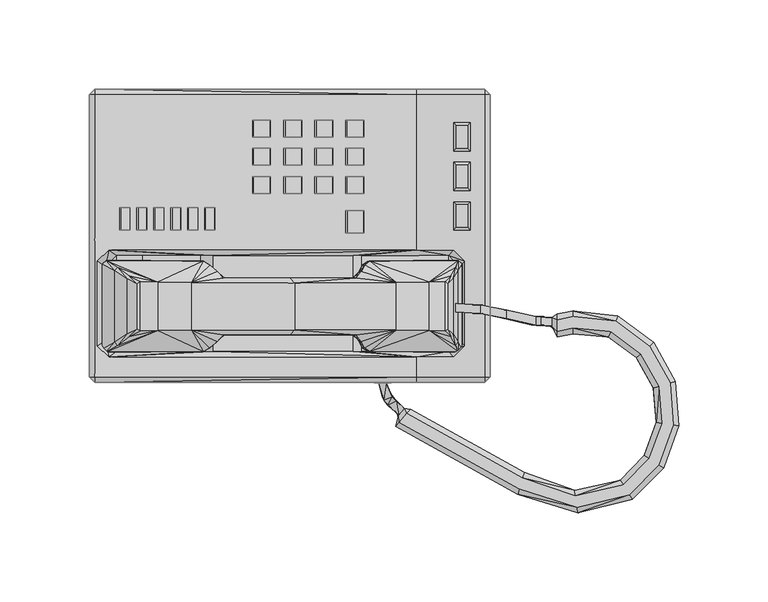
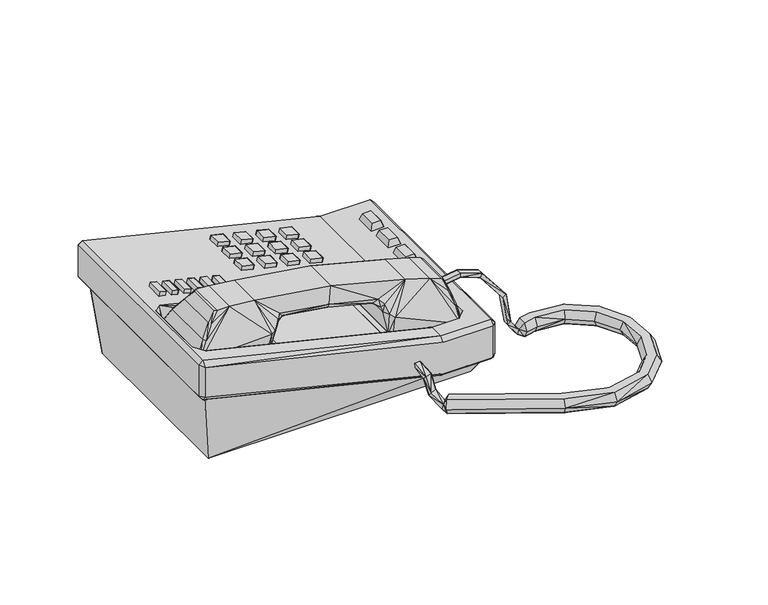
"""IFC4 building model written with IfcOpenShell, lengths in millimetres: proxy geometry, Telephone04電話 : Telephone04電話."""

from ifc_helpers import new_model, si_unit, origin, place, context, project, spatial, triangles, source, transform, mapped, element, save


def specialty_equipment_52ff1dbe(model_context):
    return source(origin(), model_context, "Body", "Tessellation", [
        triangles([(219.075, 158.7499939, 12.6999947), (212.7250061, 152.4, -6.1e-06), (12.7000004, 152.4, -6.1e-06), (184.1500061, 158.7499939, 12.6999947), (219.075, 6.3499991, 12.7000061), (212.7250061, 12.6999981, 6.1e-06), (12.7000004, 12.6999981, 6.1e-06), (184.1500061, 6.3499991, 12.7000061), (6.5250014, 158.7499939, 55.5749917), (6.5250014, 6.3500025, 55.5750053)], [[1, 2, 3], [3, 4, 1], [1, 5, 2], [6, 2, 5], [6, 5, 7], [8, 7, 5], [4, 3, 9], [10, 9, 3], [3, 7, 10], [7, 8, 10]], closed=False),
        triangles([(119.386817, 138.1125, 63.4367393), (118.6378166, 138.1125, 60.3513489), (119.386817, 147.6375, 63.4367393), (118.6378166, 147.6374909, 60.3513489), (119.386817, 122.237497, 63.4367393), (118.6378166, 122.237497, 60.3513489), (119.386817, 131.762497, 63.4367393), (118.6378166, 131.762497, 60.3513489), (119.386817, 106.362503, 63.4367393), (118.6378166, 106.362503, 60.3513489), (119.386817, 115.887503, 63.4367393), (118.6378166, 115.887503, 60.3513489), (136.849314, 122.237497, 59.1836013), (136.1003136, 122.237497, 56.098211), (136.849314, 131.762497, 59.1836013), (136.1003136, 131.762497, 56.098211), (136.849314, 106.362503, 59.1836013), (136.1003136, 106.362503, 56.098211), (136.849314, 115.887503, 59.1836013), (136.1003136, 115.887503, 56.098211), (136.849314, 138.1125, 59.1836013), (136.1003136, 138.1125, 56.098211), (136.849314, 147.6374909, 59.1836013), (136.1003136, 147.6374909, 56.098211), (154.3118201, 138.1125, 54.9793522), (153.5628106, 138.1125, 51.8939618), (154.3118201, 147.6374909, 54.9793522), (153.5628106, 147.6375, 51.8939618), (154.3118201, 122.237497, 54.9793522), (153.5628106, 122.237497, 51.8939618), (154.3118201, 131.762497, 54.9793522), (153.5628106, 131.762497, 51.8939618), (154.3118201, 106.362503, 54.9793522), (153.5628106, 106.362503, 51.8939618), (154.3118201, 115.887503, 54.9793522), (153.5628106, 115.887503, 51.8939618), (154.3118201, 84.137497, 54.9793522), (153.5628106, 84.137497, 51.8939618), (154.3118201, 96.8374939, 54.9793522), (153.5628106, 96.8374939, 51.8939618), (145.0556354, 138.1125, 57.2263171), (145.0556354, 147.6374909, 57.2263171), (144.3066441, 147.6374909, 54.1409222), (144.3066441, 138.1125, 54.1409222), (145.0556354, 131.762497, 57.2263171), (144.3066441, 131.762497, 54.1409222), (145.0556354, 122.237497, 57.2263171), (144.3066441, 122.237497, 54.1409222), (145.0556354, 106.362503, 57.2263171), (145.0556354, 115.887503, 57.2263171), (144.3066441, 115.887503, 54.1409222), (144.3066441, 106.362503, 54.1409222), (145.0556354, 96.8374939, 57.2263171), (144.3066441, 96.8374939, 54.1409222), (145.0556354, 84.137497, 57.2263171), (144.3066441, 84.137497, 54.1409222), (127.5931294, 122.237497, 61.4305663), (126.8441471, 122.237497, 58.3451714), (126.8441471, 131.762497, 58.3451714), (127.5931294, 131.762497, 61.4305663), (126.8441471, 115.887503, 58.3451714), (127.5931294, 115.887503, 61.4305663), (127.5931294, 106.362503, 61.4305663), (126.8441471, 106.362503, 58.3451714), (126.8441471, 147.6374909, 58.3451714), (127.5931294, 147.6375, 61.4305663), (127.5931294, 138.1125, 61.4305663), (126.8441471, 138.1125, 58.3451714), (101.924311, 122.237497, 67.6714326), (101.1753196, 122.237497, 64.5860423), (101.924311, 131.762497, 67.6714326), (101.1753196, 131.762497, 64.5860423), (101.924311, 106.362503, 67.6714326), (101.1753196, 106.362503, 64.5860423), (101.924311, 115.887503, 67.6714326), (101.1753196, 115.887503, 64.5860423), (101.924311, 138.1125, 67.6714326), (101.1753196, 138.1125, 64.5860423), (101.924311, 147.6375, 67.6714326), (101.1753196, 147.6375, 64.5860423), (110.1306324, 147.6375, 65.6837042), (109.3816501, 147.6375, 62.5983093), (110.1306324, 138.1125, 65.6837042), (109.3816501, 138.1125, 62.5983093), (110.1306324, 131.762497, 65.6837042), (109.3816501, 131.762497, 62.5983093), (110.1306324, 122.237497, 65.6837042), (109.3816501, 122.237497, 62.5983093), (110.1306324, 115.887503, 65.6837042), (109.3816501, 115.887503, 62.5983093), (110.1306324, 106.362503, 65.6837042), (109.3816501, 106.362503, 62.5983093), (92.6681354, 122.237497, 69.9184021), (91.9191441, 122.237497, 66.8330073), (91.9191441, 131.762497, 66.8330073), (92.6681354, 131.762497, 69.9184021), (91.9191441, 115.887503, 66.8330073), (92.6681354, 115.887503, 69.9184021), (92.6681354, 106.362503, 69.9184021), (91.9191441, 106.362503, 66.8330073), (91.9191441, 147.6375, 66.8330073), (92.6681354, 147.6375, 69.9184021), (92.6681354, 138.1125, 69.9184021), (91.9191441, 138.1125, 66.8330073)], [[1, 2, 3], [4, 3, 2], [5, 6, 7], [8, 7, 6], [9, 10, 11], [12, 11, 10], [13, 14, 15], [16, 15, 14], [17, 18, 19], [20, 19, 18], [21, 22, 23], [24, 23, 22], [25, 26, 27], [28, 27, 26], [29, 30, 31], [32, 31, 30], [33, 34, 35], [36, 35, 34], [37, 38, 39], [40, 39, 38], [41, 25, 42], [27, 42, 25], [42, 43, 41], [44, 41, 43], [45, 46, 47], [48, 47, 46], [47, 29, 45], [31, 45, 29], [49, 33, 50], [35, 50, 33], [50, 51, 49], [52, 49, 51], [53, 54, 55], [56, 55, 54], [55, 37, 53], [39, 53, 37], [27, 28, 43], [43, 42, 27], [41, 44, 25], [26, 25, 44], [47, 48, 29], [30, 29, 48], [31, 32, 46], [46, 45, 31], [35, 36, 51], [51, 50, 35], [49, 52, 33], [34, 33, 52], [55, 56, 37], [38, 37, 56], [39, 40, 54], [54, 53, 39], [57, 58, 13], [14, 13, 58], [15, 16, 59], [59, 60, 15], [19, 20, 61], [61, 62, 19], [63, 64, 17], [18, 17, 64], [23, 24, 65], [65, 66, 23], [67, 68, 21], [22, 21, 68], [60, 59, 57], [58, 57, 59], [62, 61, 63], [64, 63, 61], [66, 65, 67], [68, 67, 65], [57, 13, 60], [15, 60, 13], [63, 17, 62], [19, 62, 17], [67, 21, 66], [23, 66, 21], [69, 70, 71], [72, 71, 70], [73, 74, 75], [76, 75, 74], [77, 78, 79], [80, 79, 78], [81, 82, 83], [84, 83, 82], [85, 86, 87], [88, 87, 86], [89, 90, 91], [92, 91, 90], [83, 1, 81], [3, 81, 1], [87, 5, 85], [7, 85, 5], [91, 9, 89], [11, 89, 9], [3, 4, 82], [82, 81, 3], [83, 84, 1], [2, 1, 84], [87, 88, 5], [6, 5, 88], [7, 8, 86], [86, 85, 7], [11, 12, 90], [90, 89, 11], [91, 92, 9], [10, 9, 92], [93, 94, 69], [70, 69, 94], [71, 72, 95], [95, 96, 71], [75, 76, 97], [97, 98, 75], [99, 100, 73], [74, 73, 100], [79, 80, 101], [101, 102, 79], [103, 104, 77], [78, 77, 104], [96, 95, 93], [94, 93, 95], [98, 97, 99], [100, 99, 97], [102, 101, 103], [104, 103, 101], [93, 69, 96], [71, 96, 69], [99, 73, 98], [75, 98, 73], [103, 77, 102], [79, 102, 77]], closed=False),
        triangles([(18.0556328, 85.725, 87.869682), (22.9462624, 85.725, 86.6796928), (18.0556328, 98.424997, 87.869682), (22.9462624, 98.424997, 86.6796928), (17.3066471, 98.424997, 84.7842962), (17.3066471, 85.725, 84.7842962), (32.4712624, 85.725, 84.3548166), (31.7222756, 85.725, 81.2694217), (32.4712624, 98.424997, 84.3548166), (31.7222756, 98.424997, 81.2694217), (37.1056316, 85.725, 83.2600069), (41.9962602, 85.725, 82.0700178), (37.1056316, 98.424997, 83.2600069), (41.9962602, 98.424997, 82.0700178), (56.1556339, 85.725, 78.7242464), (61.0462602, 85.725, 77.5342572), (56.1556339, 98.424997, 78.7242464), (61.0462602, 98.424997, 77.5342572), (51.5212602, 85.725, 79.8331085), (50.7722779, 85.725, 76.7477227), (51.5212602, 98.424997, 79.8331085), (50.7722779, 98.424997, 76.7477227), (46.6306339, 98.424997, 81.0230977), (45.8816471, 98.424997, 77.9377119), (46.6306339, 85.725, 81.0230977), (45.8816471, 85.725, 77.9377119), (36.3566471, 85.725, 80.174612), (41.2472779, 85.725, 78.9846229), (36.3566471, 98.424997, 80.174612), (41.2472779, 98.424997, 78.9846229), (70.5712602, 85.725, 75.1854226), (69.8222779, 85.725, 72.1000322), (70.5712602, 98.424997, 75.1854226), (69.8222779, 98.424997, 72.1000322), (60.2972779, 98.424997, 74.4488669), (55.4066471, 98.424997, 75.638856), (55.4066471, 85.725, 75.638856), (60.2972779, 85.725, 74.4488669), (65.6806339, 85.725, 76.3754163), (64.9316471, 85.725, 73.2900214), (64.9316471, 98.424997, 73.2900214), (65.6806339, 98.424997, 76.3754163), (27.5806316, 98.424997, 85.5448057), (26.8316471, 98.424997, 82.4594108), (27.5806316, 85.725, 85.5448057), (26.8316471, 85.725, 82.4594108), (22.1972756, 85.725, 83.594307), (22.1972756, 98.424997, 83.594307)], [[1, 2, 3], [4, 3, 2], [3, 5, 1], [6, 1, 5], [7, 8, 9], [10, 9, 8], [11, 12, 13], [14, 13, 12], [15, 16, 17], [18, 17, 16], [19, 20, 21], [22, 21, 20], [23, 24, 25], [26, 25, 24], [21, 22, 24], [24, 23, 21], [25, 26, 19], [20, 19, 26], [25, 19, 23], [21, 23, 19], [11, 27, 12], [28, 12, 27], [13, 29, 11], [27, 11, 29], [12, 28, 14], [30, 14, 28], [14, 30, 29], [29, 13, 14], [31, 32, 33], [34, 33, 32], [18, 35, 36], [36, 17, 18], [17, 36, 15], [37, 15, 36], [15, 37, 16], [38, 16, 37], [39, 40, 31], [32, 31, 40], [33, 34, 41], [41, 42, 33], [39, 31, 42], [33, 42, 31], [16, 38, 18], [35, 18, 38], [42, 41, 39], [40, 39, 41], [43, 44, 45], [46, 45, 44], [45, 46, 7], [8, 7, 46], [9, 10, 44], [44, 43, 9], [1, 6, 2], [47, 2, 6], [2, 47, 4], [48, 4, 47], [4, 48, 5], [5, 3, 4], [45, 7, 43], [9, 43, 7]], closed=False),
        triangles([(212.7250061, 144.462503, 49.2612555), (206.3749939, 144.462503, 49.2612555), (206.3749939, 131.762497, 49.26126), (212.7250061, 131.762497, 49.26126), (212.7250061, 122.237497, 49.26126), (206.3749939, 122.237497, 49.26126), (206.3749939, 109.5375, 49.26126), (212.7250061, 109.5375, 49.26126), (212.7250061, 100.0124909, 49.26126), (206.3749939, 100.0124909, 49.26126), (206.3749939, 87.312503, 49.26126), (212.7250061, 87.312503, 49.26126), (214.3125, 130.175003, 44.49876), (214.3125, 146.049997, 44.4987555), (214.3125, 107.949997, 44.49876), (214.3125, 123.825, 44.49876), (214.3125, 85.7249909, 44.49876), (214.3125, 101.5999939, 44.49876), (204.7875, 130.175003, 44.49876), (204.7875, 146.049997, 44.4987555), (204.7875, 107.949997, 44.49876), (204.7875, 123.825, 44.49876), (204.7875, 85.7249909, 44.49876), (204.7875, 101.5999939, 44.49876)], [[1, 2, 3], [3, 4, 1], [5, 6, 7], [7, 8, 5], [9, 10, 11], [11, 12, 9], [4, 13, 1], [14, 1, 13], [8, 15, 5], [16, 5, 15], [12, 17, 9], [18, 9, 17], [19, 13, 3], [4, 3, 13], [2, 20, 3], [19, 3, 20], [21, 15, 7], [8, 7, 15], [6, 22, 7], [21, 7, 22], [23, 17, 11], [12, 11, 17], [10, 24, 11], [23, 11, 24], [9, 18, 24], [24, 10, 9], [5, 16, 22], [22, 6, 5], [1, 14, 20], [20, 2, 1]], closed=False),
        triangles([(220.0140597, 38.8453669, 57.2399654), (220.0140597, 43.6078669, 57.2399654), (233.3747994, 36.0127092, 54.0176467), (233.3747994, 40.7752092, 54.0176467), (206.2765261, 39.687503, 54.5557952), (206.2765261, 44.450003, 54.5557952), (234.4956975, 36.0127092, 57.1207095), (219.9561235, 38.8453669, 60.4271846), (234.4956975, 40.7752092, 57.1207095), (219.9561235, 43.6078669, 60.4271846), (205.9354859, 39.687503, 57.7124293), (205.9354859, 44.450003, 57.7124293), (162.7320547, -0.0873946, 31.8161244), (162.805415, -0.093472, 28.1094057), (165.5640039, -9.7113009, 25.9316861), (164.6510327, -7.8168171, 23.8088483), (167.0160955, -0.0719253, 28.1094057), (166.942717, -0.065848, 31.8161244), (170.4472087, -8.0459705, 25.9316861), (169.5342376, -6.1514874, 23.8088483), (326.4106359, -0.2517093, 11.8254626), (314.8907722, 20.4580831, 11.8254603), (320.2307078, -2.0662962, 11.8655117), (310.0231187, 16.2402469, 11.8655094), (328.2863208, -23.8755253, 11.8254648), (321.9110559, -22.9589002, 11.8655128), (320.1787851, -46.1436905, 11.8254671), (314.7604385, -42.6615221, 11.8655151), (273.2773057, -63.7994851, 11.8655173), (274.1939285, -70.1747364, 11.8254682), (300.071237, -57.6131803, 11.8655162), (303.5534191, -63.0315405, 11.8254682), (271.7707661, 37.1771798, 11.8254591), (263.0395221, 35.3244699, 11.8254591), (263.0395221, 28.8836589, 11.8655083), (271.7707661, 30.7363665, 11.8655083), (293.1331431, 28.6520779, 11.8655083), (295.808761, 34.5108454, 11.8254591), (243.4960203, -53.6327229, 11.8655162), (241.6814508, -59.8126418, 11.8254671), (178.5077269, -17.4364618, 11.8655128), (174.2898884, -22.3041028, 11.8254648), (172.7229601, -10.4297288, 13.5024836), (167.8397552, -12.9283317, 13.5024836), (174.0307473, -18.0260254, 5.6812717), (177.1212926, -14.4025093, 5.6812711), (254.1416277, 36.9013631, 13.5425282), (254.1416277, 32.1388654, 13.5425282), (260.0661571, 31.9704323, 5.7213157), (260.0661571, 36.73293, 5.7213151), (317.298365, 22.5442862, 6.2275297), (329.4672807, 0.6458115, 6.227532), (331.4396167, -24.3288997, 6.2275337), (322.8587814, -47.8660191, 6.2275359), (271.7707661, 40.3629024, 6.227528), (263.0395221, 38.5101948, 6.2275286), (297.1321541, 37.4086814, 6.2275286), (172.2036786, -24.7117116, 6.2275337), (240.783922, -62.8693139, 6.2275371), (244.4130791, -50.5094942, 6.3076336), (180.6393555, -14.9764296, 6.3076302), (298.3114244, -54.8748255, 6.3076336), (272.8140708, -60.5775297, 6.3076347), (274.6473165, -73.3280323, 6.2275382), (305.275734, -65.7115368, 6.2275376), (271.7707661, 27.4812782, 6.3076268), (263.0395221, 25.6285683, 6.3076268), (291.7809364, 25.691144, 6.3076268), (307.5630944, 14.1086183, 6.3076279), (317.107461, -2.9833608, 6.307629), (318.6890868, -22.4956541, 6.3076313), (312.0220882, -40.9016867, 6.3076325), (320.1641421, -2.0858401, 0.7097), (309.9706873, 16.1948202, 0.7096984), (314.8383408, 20.4126553, 0.6696479), (326.3440701, -0.2712539, 0.6696496), (321.8423827, -22.9490307, 0.7097019), (328.2176476, -23.8656536, 0.6696517), (314.7020845, -42.6240198, 0.7097036), (320.1204311, -46.1061837, 0.6696537), (300.0337393, -57.5548263, 0.7097049), (303.5159032, -62.9731865, 0.6696551), (274.1840635, -70.1060769, 0.6696557), (273.2674225, -63.7308256, 0.7097054), (271.7707661, 30.667003, 0.7096972), (263.0395221, 28.8142932, 0.7096973), (271.7707661, 37.1078095, 0.6696464), (263.0395221, 35.2551042, 0.6696465), (295.7799292, 34.4477497, 0.6696466), (293.1043294, 28.5889799, 0.7096973), (241.7009627, -59.7460806, 0.6696548), (243.5155685, -53.5661708, 0.7097045), (174.3353072, -22.2516805, 0.6696516), (178.5531456, -17.3840406, 0.7097014), (176.2877134, -13.691538, 1.8185784), (173.1971499, -17.3150541, 1.8185787), (258.9705481, 36.73293, 1.8586241), (258.9705481, 31.9704323, 1.8586247), (166.6501295, -11.4709341, 11.7902415), (171.5333343, -8.9723334, 11.7902403), (252.2907596, 32.4757158, 11.830286), (252.2907596, 37.2382158, 11.830286), (248.3751193, 32.475718, 34.7046835), (248.3751193, 37.238218, 34.7046835), (250.8632486, 32.475718, 36.8275191), (250.8632486, 37.238218, 36.8275191)], [[1, 2, 3], [4, 3, 2], [5, 6, 2], [2, 1, 5], [1, 3, 7], [1, 7, 8], [4, 2, 9], [9, 2, 10], [8, 11, 1], [1, 11, 5], [12, 10, 2], [12, 2, 6], [10, 8, 9], [7, 9, 8], [12, 11, 8], [8, 10, 12], [13, 14, 15], [15, 14, 16], [17, 18, 19], [17, 19, 20], [20, 16, 17], [17, 16, 14], [18, 13, 15], [18, 15, 19], [21, 22, 23], [24, 23, 22], [25, 21, 26], [23, 26, 21], [27, 25, 28], [26, 28, 25], [29, 30, 31], [31, 30, 32], [33, 34, 35], [35, 36, 33], [33, 36, 37], [33, 37, 38], [22, 38, 24], [37, 24, 38], [32, 27, 28], [28, 31, 32], [39, 40, 29], [29, 40, 30], [39, 41, 40], [42, 40, 41], [43, 44, 45], [43, 45, 46], [47, 48, 49], [49, 50, 47], [51, 22, 21], [51, 21, 52], [53, 25, 27], [53, 27, 54], [55, 56, 33], [34, 33, 56], [57, 55, 38], [38, 55, 33], [40, 42, 58], [40, 58, 59], [60, 61, 41], [60, 41, 39], [45, 42, 41], [45, 41, 46], [46, 41, 61], [58, 42, 45], [29, 31, 62], [29, 62, 63], [64, 65, 32], [64, 32, 30], [36, 35, 66], [67, 66, 35], [37, 36, 68], [68, 36, 66], [49, 35, 34], [49, 34, 50], [67, 35, 49], [50, 34, 56], [37, 68, 69], [37, 69, 24], [57, 38, 22], [57, 22, 51], [24, 69, 70], [24, 70, 23], [23, 70, 71], [23, 71, 26], [26, 71, 72], [26, 72, 28], [65, 54, 32], [32, 54, 27], [31, 28, 62], [62, 28, 72], [39, 29, 63], [39, 63, 60], [59, 64, 30], [59, 30, 40], [52, 21, 25], [52, 25, 53], [73, 74, 75], [75, 76, 73], [77, 73, 76], [76, 78, 77], [79, 77, 78], [78, 80, 79], [81, 82, 83], [81, 83, 84], [85, 86, 87], [88, 87, 86], [89, 90, 87], [87, 90, 85], [74, 90, 89], [89, 75, 74], [81, 79, 82], [80, 82, 79], [84, 83, 91], [84, 91, 92], [91, 93, 94], [94, 92, 91], [95, 94, 96], [96, 94, 93], [97, 88, 98], [98, 88, 86], [44, 99, 45], [45, 99, 96], [100, 43, 46], [100, 46, 95], [48, 101, 49], [49, 101, 98], [102, 47, 50], [102, 50, 97], [52, 76, 51], [51, 76, 75], [54, 80, 53], [53, 80, 78], [87, 88, 56], [56, 55, 87], [89, 87, 55], [89, 55, 57], [96, 99, 100], [96, 100, 95], [101, 102, 97], [97, 98, 101], [59, 58, 91], [91, 58, 93], [92, 94, 60], [60, 94, 61], [95, 46, 94], [94, 46, 61], [93, 58, 45], [93, 45, 96], [63, 62, 84], [84, 62, 81], [83, 82, 64], [64, 82, 65], [66, 67, 86], [86, 85, 66], [68, 66, 85], [68, 85, 90], [86, 67, 49], [86, 49, 98], [97, 50, 88], [88, 50, 56], [74, 69, 90], [90, 69, 68], [51, 75, 57], [57, 75, 89], [73, 70, 74], [74, 70, 69], [77, 71, 73], [73, 71, 70], [79, 72, 77], [77, 72, 71], [62, 72, 79], [62, 79, 81], [82, 80, 54], [82, 54, 65], [60, 63, 92], [92, 63, 84], [91, 83, 59], [59, 83, 64], [53, 78, 52], [52, 78, 76], [103, 104, 101], [102, 101, 104], [103, 101, 48], [103, 48, 105], [106, 105, 47], [48, 47, 105], [102, 104, 47], [47, 104, 106], [99, 16, 20], [99, 20, 100], [16, 99, 44], [16, 44, 15], [100, 20, 43], [43, 20, 19], [43, 19, 44], [44, 19, 15], [7, 3, 105], [105, 3, 103], [9, 7, 105], [105, 106, 9], [4, 9, 106], [4, 106, 104], [3, 4, 104], [104, 103, 3]], closed=False),
        triangles([(28.8695428, 56.7488208, 103.869968), (28.8695428, 28.9761837, 103.869968), (38.5202006, 29.2727681, 103.5373303), (38.5202006, 56.452241, 103.5373303), (27.1160411, 55.4598052, 103.7137548), (27.1160411, 30.2652039, 103.7137548), (57.5067415, 56.1556612, 101.3160814), (57.5067415, 29.5693456, 101.3160905), (4.7625, 68.2624985, 87.7486683), (11.1124996, 74.6125015, 86.2152045), (3.1750001, 80.9625, 88.1336193), (3.1750001, 3.1750026, 88.1336284), (11.1124996, 14.2875034, 86.2152045), (4.7625, 20.637503, 87.7486773), (0.0, 161.925, 85.7249909), (0.0, 3.1750024, 85.7250091), (3.1750001, 161.925, 88.1336193), (21.0717766, 27.242798, 97.3491451), (14.5152171, 22.8228529, 88.9575698), (16.0711972, 20.9245563, 88.6427997), (22.6277613, 25.8951581, 97.0343751), (14.5152171, 62.9021425, 88.9575607), (21.0717766, 58.4822043, 97.349136), (16.0711972, 64.800446, 88.6427907), (22.6277613, 59.829851, 97.034366), (115.7075722, 29.6330046, 92.7815914), (115.7075722, 56.0919977, 92.7815914), (201.5823541, 30.2652016, 68.419879), (201.5823541, 55.4598007, 68.4198744), (200.0274526, 56.7488117, 69.2453691), (200.0274526, 28.9761815, 69.2453736), (191.0063281, 29.2727658, 72.6899672), (191.0063281, 56.4522364, 72.6899626), (172.6493272, 56.1556566, 78.0231718), (172.6493272, 29.5693456, 78.0231809), (73.0308212, 24.4970649, 81.9790531), (73.0308212, 61.2279351, 81.9790441), (78.0135339, 28.2734763, 82.5907255), (78.0135339, 57.4515305, 82.5907164), (112.5756231, 57.45788, 77.2995786), (112.5756231, 28.2671245, 77.2995877), (70.8452987, 23.240376, 79.1818583), (70.8452987, 62.4846262, 79.1818583), (146.4766969, 28.2734741, 68.740885), (113.189421, 26.8298281, 80.3337502), (150.2181928, 26.8113654, 71.2233098), (146.4766969, 57.4515305, 68.7408804), (113.189421, 58.8951696, 80.3337411), (150.2181928, 58.9136278, 71.2233052), (151.7563165, 62.4846262, 62.8138621), (151.7563165, 23.240376, 62.8138667), (150.8298651, 61.2279351, 66.2405925), (150.8298651, 24.4970626, 66.240597), (24.1661553, 30.1954134, 64.6072165), (24.1661553, 55.5954119, 64.607212), (47.9869556, 30.3260264, 66.2669898), (47.9869556, 55.4648013, 66.2669808), (59.917709, 17.723724, 65.1958979), (59.917709, 68.0012771, 65.1958933), (63.3444393, 66.2098394, 66.1223312), (63.3444393, 19.5151606, 66.1223402), (62.627609, 17.4625004, 61.129004), (62.627609, 71.4375, 61.128995), (30.2154635, 71.4375, 60.5485525), (30.2154635, 17.4625004, 60.5485571), (15.4519456, 71.4375, 60.6285713), (15.4519456, 17.4625004, 60.6285804), (9.1019517, 65.0875015, 61.5963447), (9.1019517, 23.8125, 61.5963492), (9.1641453, 19.7483881, 62.5058913), (9.1641453, 65.9766097, 62.5058867), (12.2761039, 68.2624985, 61.8763467), (12.2761039, 17.4625004, 61.8763512), (69.4021228, 17.4625015, 67.4880454), (69.4021228, 71.4375, 67.4880363), (3.1750001, 161.925, 56.3836178), (6.5250014, 158.7499939, 55.5749917), (3.1750001, 3.1749998, 56.3836269), (6.5250014, 6.3499996, 55.5750053), (0.0, 3.1750001, 60.3250061), (0.0, 161.925, 60.3249924), (3.1750001, 2e-07, 60.3250061), (3.1750001, 165.1000061, 60.3249924), (67.7333429, 19.5076824, 79.8113984), (64.306608, 17.4193662, 78.884956), (9.6406055, 17.2019194, 77.3067457), (64.306608, 68.3056417, 78.8849469), (67.7333429, 66.2173199, 79.8113984), (9.6406055, 68.523084, 77.3067366), (7.3291192, 66.6966511, 77.4540205), (7.3291192, 19.0283523, 77.4540205), (204.6775321, 27.2427957, 60.2063905), (204.6775321, 58.4821998, 60.2063859), (203.1215406, 25.8951559, 60.5211605), (154.8682723, 19.5076824, 62.1843266), (157.6654671, 17.4193639, 59.9988087), (153.0153876, 23.178468, 69.0377918), (203.1215406, 59.8298464, 60.521156), (153.0153876, 62.546532, 69.0377873), (154.8682723, 66.2173199, 62.1843221), (157.6654671, 68.3056417, 59.9988041), (3.1750001, 2.3e-06, 84.1375061), (3.1750001, 165.1000061, 84.137497), (75.5311091, 26.8113699, 86.3322213), (75.5311091, 58.9136278, 86.3322213), (72.1043788, 62.546532, 85.4057789), (72.1043788, 23.1784703, 85.405788), (222.2500061, 80.9625, 44.450003), (222.2500061, 161.925, 44.4499939), (184.1500061, 80.9625, 44.450003), (184.1500061, 161.925, 44.4499939), (211.1374939, 68.2624985, 44.4499985), (204.7875, 74.6125015, 44.4499985), (184.1500061, 74.6125015, 44.4499985), (222.2500061, 3.174999, 44.4500076), (211.1374939, 20.6374985, 44.4500076), (204.7875, 14.2874989, 44.4500076), (184.1500061, 14.2874989, 44.4500076), (184.1500061, 3.174999, 44.4500076), (156.3885283, 68.0012771, 45.6802059), (156.3885283, 17.7237229, 45.6802105), (153.5913335, 66.2098394, 47.8657239), (153.5913335, 19.5151583, 47.8657329), (152.8539876, 17.4624981, 42.3231752), (152.8539876, 71.4375, 42.3231706), (148.4431558, 17.4624981, 49.0578204), (148.4431558, 71.4375, 49.0578113), (167.7974795, 55.4648013, 42.0297701), (167.7974795, 30.3260264, 42.0297747), (209.6066281, 19.0283489, 36.5340436), (209.6066281, 66.6966511, 36.5340368), (207.4568683, 22.8228507, 49.9261995), (207.4568683, 62.9021425, 49.9261949), (205.9008768, 20.9245517, 50.2409695), (207.4196613, 17.201916, 37.29679), (205.9008768, 64.800446, 50.240965), (207.4196613, 68.523084, 37.2967855), (225.4249939, 3.1749984, 41.2750061), (225.4249939, 161.925, 41.2749924), (222.2500061, -1.5e-06, 41.2750061), (184.1500061, -1.5e-06, 41.2750061), (222.2500061, 165.1000061, 41.274997), (184.1500061, 165.1000061, 41.274997), (202.1057778, 65.9766051, 23.4745187), (202.1057778, 19.7483858, 23.4745278), (198.9938311, 68.2624985, 24.1040565), (198.9938311, 17.462497, 24.1040633), (207.9625061, 65.0874924, 20.6375008), (202.0336528, 71.4374955, 21.7949201), (207.9625061, 23.8124977, 20.6375053), (202.0336528, 17.462497, 21.7949247), (185.6327462, 17.462497, 28.6426285), (185.6327462, 71.4375, 28.6426194), (189.10014, 30.1954112, 31.2416977), (189.10014, 55.5954119, 31.2416954), (169.8625061, -0.0487032, 33.3375068), (169.8625061, -0.0487037, 26.9875061), (160.3375061, -0.0487037, 26.9875061), (160.3375061, -0.0487032, 33.3375068), (222.2500061, 161.925, 12.6999936), (219.075, 158.7499939, 12.6999936), (184.1500061, 161.925, 12.6999936), (184.1500061, 158.7499939, 12.6999936), (184.1500061, 3.1749961, 12.7000106), (184.1500061, 6.3499956, 12.7000061), (222.2500061, 3.1749961, 12.7000106), (219.075, 6.3499956, 12.7000061), (225.4249939, 161.925, 15.8749928), (225.4249939, 3.1749961, 15.875011), (222.2500061, -3.7e-06, 15.8750076), (184.1500061, -3.7e-06, 15.8750076), (222.2500061, 165.1000061, 15.8749928), (184.1500061, 165.1000061, 15.8749928)], [[1, 2, 3], [3, 4, 1], [5, 6, 1], [2, 1, 6], [4, 3, 7], [8, 7, 3], [9, 10, 11], [12, 13, 14], [15, 16, 17], [12, 17, 16], [12, 14, 11], [9, 11, 14], [18, 19, 20], [18, 20, 21], [22, 23, 24], [24, 23, 25], [22, 19, 23], [18, 23, 19], [23, 18, 6], [6, 5, 23], [2, 6, 21], [21, 6, 18], [2, 21, 3], [25, 1, 4], [5, 1, 25], [5, 25, 23], [7, 8, 26], [26, 27, 7], [28, 29, 30], [30, 31, 28], [31, 30, 32], [33, 32, 30], [32, 33, 34], [34, 35, 32], [36, 37, 38], [39, 38, 37], [38, 39, 40], [40, 41, 38], [42, 43, 37], [37, 36, 42], [41, 44, 45], [45, 44, 46], [47, 40, 48], [47, 48, 49], [47, 44, 40], [41, 40, 44], [50, 51, 52], [53, 52, 51], [54, 55, 56], [57, 56, 55], [58, 59, 60], [60, 61, 58], [57, 59, 56], [58, 56, 59], [62, 63, 64], [64, 65, 62], [66, 67, 65], [65, 64, 66], [66, 68, 69], [69, 67, 66], [70, 71, 72], [72, 73, 70], [74, 75, 62], [63, 62, 75], [54, 73, 55], [72, 55, 73], [56, 58, 73], [73, 54, 56], [55, 72, 59], [59, 57, 55], [76, 77, 78], [79, 78, 77], [78, 80, 81], [81, 76, 78], [78, 82, 80], [83, 76, 81], [61, 60, 42], [43, 42, 60], [84, 61, 42], [84, 85, 61], [61, 85, 58], [86, 73, 58], [86, 58, 85], [87, 88, 60], [87, 60, 59], [60, 88, 43], [72, 89, 59], [59, 89, 87], [71, 70, 90], [91, 90, 70], [86, 91, 70], [86, 70, 73], [90, 89, 71], [71, 89, 72], [92, 93, 28], [29, 28, 93], [52, 53, 44], [44, 47, 52], [94, 31, 32], [35, 95, 96], [35, 46, 97], [35, 97, 95], [44, 53, 46], [46, 53, 97], [28, 31, 94], [28, 94, 92], [53, 51, 97], [97, 51, 95], [30, 98, 33], [49, 34, 99], [99, 34, 100], [100, 34, 101], [52, 47, 49], [52, 49, 99], [30, 29, 98], [98, 29, 93], [50, 52, 99], [50, 99, 100], [14, 69, 68], [68, 9, 14], [81, 80, 16], [16, 15, 81], [102, 16, 80], [80, 82, 102], [15, 103, 81], [83, 81, 103], [38, 41, 45], [38, 45, 104], [40, 39, 48], [48, 39, 105], [34, 49, 27], [27, 49, 48], [46, 35, 26], [46, 26, 45], [4, 7, 87], [4, 87, 89], [22, 24, 89], [22, 89, 90], [25, 4, 24], [24, 4, 89], [90, 91, 19], [19, 22, 90], [3, 21, 20], [3, 20, 86], [20, 19, 86], [86, 19, 91], [8, 3, 85], [85, 3, 86], [74, 62, 13], [13, 62, 65], [75, 10, 63], [63, 10, 64], [10, 66, 64], [13, 65, 67], [9, 68, 10], [10, 68, 66], [14, 13, 69], [69, 13, 67], [7, 88, 87], [7, 105, 106], [7, 106, 88], [104, 8, 107], [107, 8, 84], [84, 8, 85], [8, 104, 26], [26, 104, 45], [105, 7, 27], [105, 27, 48], [39, 37, 105], [105, 37, 106], [36, 38, 104], [36, 104, 107], [37, 43, 106], [106, 43, 88], [42, 36, 107], [42, 107, 84], [102, 12, 16], [17, 103, 15], [35, 34, 26], [27, 26, 34], [108, 109, 110], [111, 110, 109], [112, 108, 113], [113, 108, 114], [110, 114, 108], [115, 116, 117], [115, 117, 118], [118, 119, 115], [108, 112, 115], [116, 115, 112], [120, 121, 122], [123, 122, 121], [124, 125, 126], [127, 126, 125], [120, 128, 129], [129, 121, 120], [130, 131, 132], [133, 132, 131], [132, 134, 135], [132, 135, 130], [136, 133, 137], [137, 133, 131], [109, 115, 138], [138, 139, 109], [140, 115, 119], [119, 141, 140], [115, 140, 138], [109, 142, 111], [143, 111, 142], [142, 109, 139], [144, 145, 146], [147, 146, 145], [148, 149, 150], [151, 150, 149], [151, 149, 152], [153, 152, 149], [147, 154, 155], [155, 146, 147], [156, 157, 158], [158, 159, 156], [151, 124, 118], [118, 124, 126], [114, 127, 125], [114, 125, 149], [112, 113, 149], [112, 149, 148], [151, 117, 116], [151, 116, 150], [150, 116, 148], [112, 148, 116], [151, 118, 117], [149, 113, 114], [130, 135, 145], [145, 135, 147], [145, 144, 131], [131, 130, 145], [137, 131, 144], [137, 144, 146], [155, 154, 129], [129, 128, 155], [152, 153, 125], [125, 124, 152], [121, 129, 147], [154, 147, 129], [146, 155, 120], [128, 120, 155], [160, 161, 162], [163, 162, 161], [164, 165, 166], [167, 166, 165], [166, 167, 161], [161, 160, 166], [168, 169, 166], [166, 160, 168], [166, 170, 164], [171, 164, 170], [169, 170, 166], [172, 160, 162], [162, 173, 172], [172, 168, 160], [142, 139, 168], [168, 172, 142], [138, 140, 169], [170, 169, 140], [139, 138, 168], [169, 168, 138], [170, 140, 141], [141, 171, 170], [142, 172, 143], [173, 143, 172], [143, 173, 83], [83, 103, 143], [171, 141, 82], [102, 82, 141], [78, 79, 165], [165, 164, 78], [162, 163, 77], [77, 76, 162], [171, 82, 78], [171, 78, 164], [83, 173, 76], [76, 173, 162], [147, 135, 121], [121, 135, 96], [137, 146, 120], [137, 120, 101], [118, 126, 74], [118, 74, 13], [114, 10, 75], [114, 75, 127], [12, 119, 13], [13, 119, 118], [110, 11, 10], [110, 10, 114], [110, 111, 17], [17, 11, 110], [141, 119, 102], [102, 119, 12], [111, 143, 103], [111, 103, 17], [132, 92, 134], [134, 92, 94], [132, 133, 93], [93, 92, 132], [93, 133, 136], [93, 136, 98], [96, 95, 123], [96, 123, 121], [123, 95, 51], [32, 35, 96], [32, 96, 135], [94, 32, 134], [134, 32, 135], [122, 123, 51], [51, 50, 122], [33, 98, 136], [33, 136, 137], [34, 33, 101], [101, 33, 137], [100, 122, 50], [100, 101, 122], [122, 101, 120], [126, 127, 75], [75, 74, 126]], closed=False),
        triangles([(14.2875, 103.187497, 85.5673516), (73.0249985, 103.187497, 71.4375), (14.2875, 149.225003, 85.5673516), (73.0249985, 149.225003, 71.4375)], [[1, 2, 3], [4, 3, 2]], closed=False),
    ])


if __name__ == "__main__":
    model = new_model("IFC4")
    model_context = context("Model", 3, world=origin())
    ifc_project = project(units=[si_unit("LENGTHUNIT", "METRE", prefix="MILLI")], contexts=[model_context])
    site = spatial("IfcSite", under=ifc_project)
    building = spatial("IfcBuilding", under=site)
    placement = place(None, origin())
    specialty_equipment_shape = specialty_equipment_52ff1dbe(model_context)
    element("IfcBuildingElementProxy", 1, Name="Telephone04電話 : Telephone04電話", ObjectType="Telephone04電話 : Telephone04電話", at=placement, inside=building, context=model_context, shape_type="MappedRepresentation", body=[
        mapped(specialty_equipment_shape, transform((0.0, 0.0, 0.0), x_axis=(1.0, 0.0, 0.0), y_axis=(0.0, 1.0, 0.0), z_axis=(0.0, 0.0, 1.0))),
    ])
    save(model, "model.ifc")
